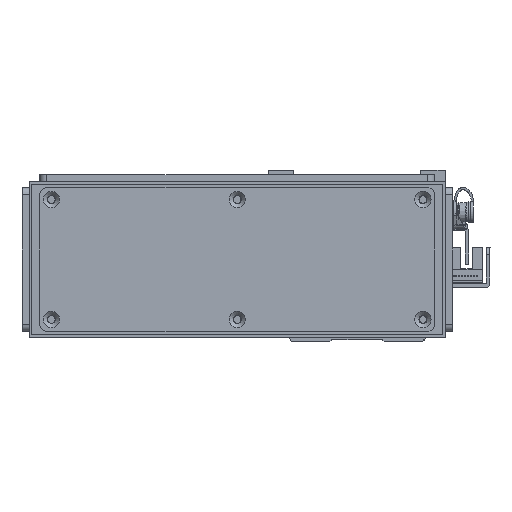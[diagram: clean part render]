
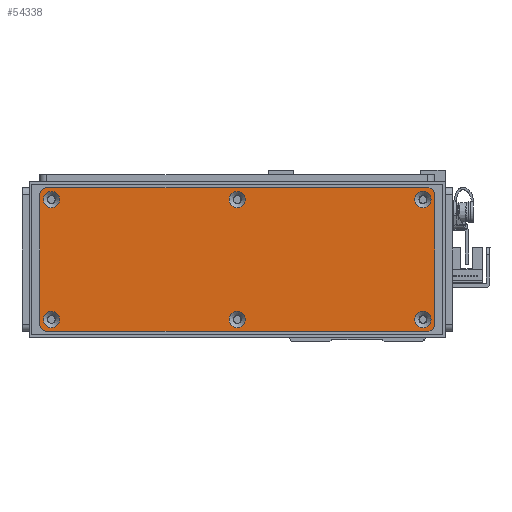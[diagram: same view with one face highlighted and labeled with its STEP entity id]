
A CAD part, left-side view. The second image highlights one B-rep face of the part: STEP entity #54338.
In plain terms, the highlighted planar face has unit normal (-1, 0, 0) as drawn and (0, 0, 1) by its records, which use the part's own axes.
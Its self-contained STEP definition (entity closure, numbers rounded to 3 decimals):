
#1121=FACE_BOUND('',#8752,.T.);
#1122=FACE_BOUND('',#8753,.T.);
#1123=FACE_BOUND('',#8754,.T.);
#1124=FACE_BOUND('',#8755,.T.);
#1125=FACE_BOUND('',#8756,.T.);
#1126=FACE_BOUND('',#8757,.T.);
#3080=PLANE('',#58410);
#5602=FACE_OUTER_BOUND('',#8751,.T.);
#8751=EDGE_LOOP('',(#48755,#48756,#48757,#48758,#48759,#48760,#48761,#48762));
#8752=EDGE_LOOP('',(#48763));
#8753=EDGE_LOOP('',(#48764));
#8754=EDGE_LOOP('',(#48765));
#8755=EDGE_LOOP('',(#48766));
#8756=EDGE_LOOP('',(#48767));
#8757=EDGE_LOOP('',(#48768));
#14919=LINE('',#87464,#21167);
#14922=LINE('',#87472,#21170);
#14925=LINE('',#87480,#21173);
#14928=LINE('',#87487,#21176);
#21167=VECTOR('',#71146,10.);
#21170=VECTOR('',#71155,10.);
#21173=VECTOR('',#71164,10.);
#21176=VECTOR('',#71173,10.);
#22720=CIRCLE('',#58364,3.45);
#22723=CIRCLE('',#58369,3.45);
#22726=CIRCLE('',#58374,3.45);
#22729=CIRCLE('',#58379,3.45);
#22732=CIRCLE('',#58384,3.45);
#22735=CIRCLE('',#58389,3.45);
#22742=CIRCLE('',#58399,3.);
#22743=CIRCLE('',#58402,3.);
#22744=CIRCLE('',#58405,3.);
#22745=CIRCLE('',#58408,3.);
#27447=VERTEX_POINT('',#87380);
#27450=VERTEX_POINT('',#87390);
#27453=VERTEX_POINT('',#87400);
#27456=VERTEX_POINT('',#87410);
#27459=VERTEX_POINT('',#87420);
#27462=VERTEX_POINT('',#87430);
#27473=VERTEX_POINT('',#87457);
#27474=VERTEX_POINT('',#87459);
#27475=VERTEX_POINT('',#87463);
#27476=VERTEX_POINT('',#87467);
#27477=VERTEX_POINT('',#87471);
#27478=VERTEX_POINT('',#87475);
#27479=VERTEX_POINT('',#87479);
#27480=VERTEX_POINT('',#87483);
#34667=EDGE_CURVE('',#27447,#27447,#22720,.T.);
#34672=EDGE_CURVE('',#27450,#27450,#22723,.T.);
#34677=EDGE_CURVE('',#27453,#27453,#22726,.T.);
#34682=EDGE_CURVE('',#27456,#27456,#22729,.T.);
#34687=EDGE_CURVE('',#27459,#27459,#22732,.T.);
#34692=EDGE_CURVE('',#27462,#27462,#22735,.T.);
#34706=EDGE_CURVE('',#27474,#27473,#22742,.T.);
#34708=EDGE_CURVE('',#27475,#27474,#14919,.T.);
#34710=EDGE_CURVE('',#27476,#27475,#22743,.T.);
#34712=EDGE_CURVE('',#27477,#27476,#14922,.T.);
#34714=EDGE_CURVE('',#27478,#27477,#22744,.T.);
#34716=EDGE_CURVE('',#27479,#27478,#14925,.T.);
#34718=EDGE_CURVE('',#27480,#27479,#22745,.T.);
#34720=EDGE_CURVE('',#27473,#27480,#14928,.T.);
#48755=ORIENTED_EDGE('',*,*,#34720,.T.);
#48756=ORIENTED_EDGE('',*,*,#34718,.T.);
#48757=ORIENTED_EDGE('',*,*,#34716,.T.);
#48758=ORIENTED_EDGE('',*,*,#34714,.T.);
#48759=ORIENTED_EDGE('',*,*,#34712,.T.);
#48760=ORIENTED_EDGE('',*,*,#34710,.T.);
#48761=ORIENTED_EDGE('',*,*,#34708,.T.);
#48762=ORIENTED_EDGE('',*,*,#34706,.T.);
#48763=ORIENTED_EDGE('',*,*,#34667,.T.);
#48764=ORIENTED_EDGE('',*,*,#34672,.T.);
#48765=ORIENTED_EDGE('',*,*,#34677,.T.);
#48766=ORIENTED_EDGE('',*,*,#34682,.T.);
#48767=ORIENTED_EDGE('',*,*,#34687,.T.);
#48768=ORIENTED_EDGE('',*,*,#34692,.T.);
#54338=ADVANCED_FACE('',(#5602,#1121,#1122,#1123,#1124,#1125,#1126),#3080,
 .T.);
#58364=AXIS2_PLACEMENT_3D('',#87381,#71054,#71055);
#58369=AXIS2_PLACEMENT_3D('',#87391,#71066,#71067);
#58374=AXIS2_PLACEMENT_3D('',#87401,#71078,#71079);
#58379=AXIS2_PLACEMENT_3D('',#87411,#71090,#71091);
#58384=AXIS2_PLACEMENT_3D('',#87421,#71102,#71103);
#58389=AXIS2_PLACEMENT_3D('',#87431,#71114,#71115);
#58399=AXIS2_PLACEMENT_3D('',#87460,#71141,#71142);
#58402=AXIS2_PLACEMENT_3D('',#87468,#71150,#71151);
#58405=AXIS2_PLACEMENT_3D('',#87476,#71159,#71160);
#58408=AXIS2_PLACEMENT_3D('',#87484,#71168,#71169);
#58410=AXIS2_PLACEMENT_3D('',#87488,#71174,#71175);
#71054=DIRECTION('center_axis',(0.,0.,-1.));
#71055=DIRECTION('ref_axis',(1.,0.,0.));
#71066=DIRECTION('center_axis',(0.,0.,-1.));
#71067=DIRECTION('ref_axis',(1.,0.,0.));
#71078=DIRECTION('center_axis',(0.,0.,-1.));
#71079=DIRECTION('ref_axis',(1.,0.,0.));
#71090=DIRECTION('center_axis',(0.,0.,-1.));
#71091=DIRECTION('ref_axis',(1.,0.,0.));
#71102=DIRECTION('center_axis',(0.,0.,-1.));
#71103=DIRECTION('ref_axis',(1.,0.,0.));
#71114=DIRECTION('center_axis',(0.,0.,-1.));
#71115=DIRECTION('ref_axis',(1.,0.,0.));
#71141=DIRECTION('center_axis',(0.,0.,1.));
#71142=DIRECTION('ref_axis',(-1.,0.,0.));
#71146=DIRECTION('',(0.,1.,0.));
#71150=DIRECTION('center_axis',(0.,0.,1.));
#71151=DIRECTION('ref_axis',(0.,1.,0.));
#71155=DIRECTION('',(1.,0.,0.));
#71159=DIRECTION('center_axis',(0.,0.,1.));
#71160=DIRECTION('ref_axis',(1.,0.,0.));
#71164=DIRECTION('',(0.,-1.,0.));
#71168=DIRECTION('center_axis',(0.,0.,1.));
#71169=DIRECTION('ref_axis',(0.,-1.,0.));
#71173=DIRECTION('',(-1.,0.,0.));
#71174=DIRECTION('center_axis',(0.,0.,1.));
#71175=DIRECTION('ref_axis',(1.,0.,0.));
#87380=CARTESIAN_POINT('',(-3.45,25.5,1.5));
#87381=CARTESIAN_POINT('Origin',(0.,25.5,1.5));
#87390=CARTESIAN_POINT('',(75.55,-25.5,1.5));
#87391=CARTESIAN_POINT('Origin',(79.,-25.5,1.5));
#87400=CARTESIAN_POINT('',(-82.45,25.5,1.5));
#87401=CARTESIAN_POINT('Origin',(-79.,25.5,1.5));
#87410=CARTESIAN_POINT('',(75.55,25.5,1.5));
#87411=CARTESIAN_POINT('Origin',(79.,25.5,1.5));
#87420=CARTESIAN_POINT('',(-82.45,-25.5,1.5));
#87421=CARTESIAN_POINT('Origin',(-79.,-25.5,1.5));
#87430=CARTESIAN_POINT('',(-3.45,-25.5,1.5));
#87431=CARTESIAN_POINT('Origin',(0.,-25.5,1.5));
#87457=CARTESIAN_POINT('',(81.,30.5,1.5));
#87459=CARTESIAN_POINT('',(84.,27.5,1.5));
#87460=CARTESIAN_POINT('Origin',(81.,27.5,1.5));
#87463=CARTESIAN_POINT('',(84.,-27.5,1.5));
#87464=CARTESIAN_POINT('',(84.,27.5,1.5));
#87467=CARTESIAN_POINT('',(81.,-30.5,1.5));
#87468=CARTESIAN_POINT('Origin',(81.,-27.5,1.5));
#87471=CARTESIAN_POINT('',(-81.,-30.5,1.5));
#87472=CARTESIAN_POINT('',(81.,-30.5,1.5));
#87475=CARTESIAN_POINT('',(-84.,-27.5,1.5));
#87476=CARTESIAN_POINT('Origin',(-81.,-27.5,1.5));
#87479=CARTESIAN_POINT('',(-84.,27.5,1.5));
#87480=CARTESIAN_POINT('',(-84.,-27.5,1.5));
#87483=CARTESIAN_POINT('',(-81.,30.5,1.5));
#87484=CARTESIAN_POINT('Origin',(-81.,27.5,1.5));
#87487=CARTESIAN_POINT('',(-81.,30.5,1.5));
#87488=CARTESIAN_POINT('Origin',(0.,0.,
1.5));
